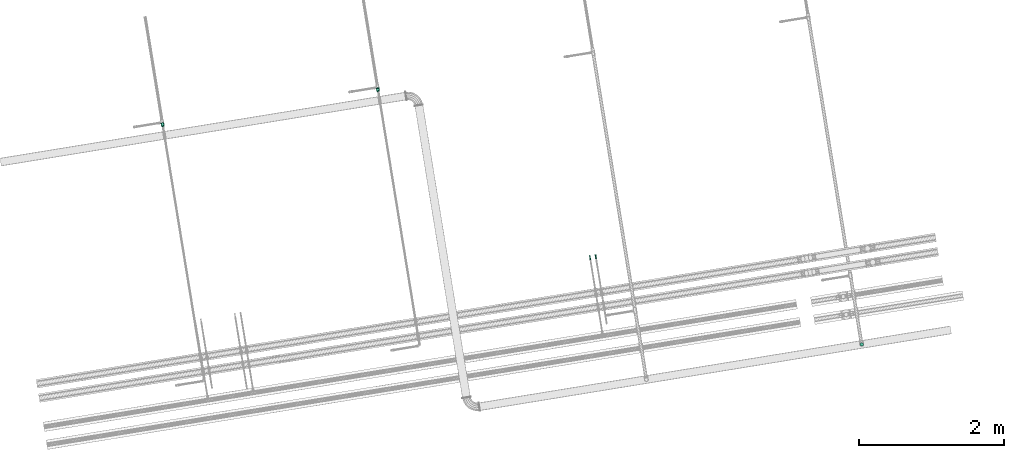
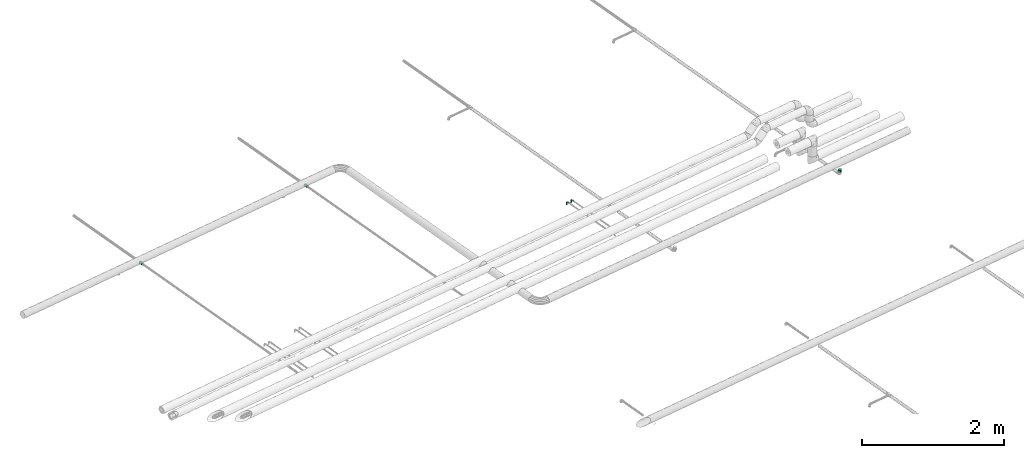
# One storey, part 50 of 56: 4 flow fittings, 1 flow segment.
"""IFC2X3 building model written with IfcOpenShell, lengths in millimetres."""

from ifc_helpers import new_model, entity, si_unit, converted_unit, derived_unit, direction, frame, origin, origin_with_axes, origin_2d_with_axis, place, context, subcontext, project, spatial, circle, extrude, faceted_brep, source, transform, mapped, material, material_list, type_object, element, save


model = new_model("IFC2X3")

# Units and contexts
model_context = context("Model", 3, precision=0.01, world=origin(), true_north=direction((6.12323399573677e-17, 1.0)))
plan_context = context("Plan", 3, precision=1e-05, world=origin_with_axes())
body_context = subcontext(model_context, "Body", "Model", "MODEL_VIEW")
ifc_project = project(units=[converted_unit("PLANEANGLEUNIT", "DEGREE", entity("IfcPositiveLengthMeasure", 0.0174532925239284), si_unit("PLANEANGLEUNIT", "RADIAN"), dimensions=[0, 0, 0, 0, 0, 0, 0]), si_unit("AREAUNIT", "SQUARE_METRE"), si_unit("LENGTHUNIT", "METRE", prefix="MILLI"), si_unit("MASSUNIT", "GRAM", prefix="KILO"), si_unit("POWERUNIT", "WATT"), si_unit("PRESSUREUNIT", "PASCAL", prefix="KILO"), si_unit("FORCEUNIT", "NEWTON", prefix="KILO"), si_unit("ELECTRICVOLTAGEUNIT", "VOLT"), si_unit("ELECTRICCURRENTUNIT", "AMPERE"), si_unit("THERMODYNAMICTEMPERATUREUNIT", "DEGREE_CELSIUS"), si_unit("TIMEUNIT", "SECOND"), si_unit("VOLUMEUNIT", "CUBIC_METRE"), derived_unit("LINEARVELOCITYUNIT", [(si_unit("LENGTHUNIT", "METRE"), 1), (si_unit("TIMEUNIT", "SECOND"), -1)]), derived_unit("VOLUMETRICFLOWRATEUNIT", [(si_unit("VOLUMEUNIT", "CUBIC_METRE"), 1), (si_unit("TIMEUNIT", "SECOND"), -1)]), derived_unit("THERMALTRANSMITTANCEUNIT", [(si_unit("POWERUNIT", "WATT"), 1), (si_unit("THERMODYNAMICTEMPERATUREUNIT", "KELVIN"), -1), (si_unit("AREAUNIT", "SQUARE_METRE"), -1)]), derived_unit("SOUNDPRESSUREUNIT", [(si_unit("PRESSUREUNIT", "PASCAL"), 1)])], contexts=[model_context, plan_context])

# Site, building, storey
site_placement = place(None, frame((-3.09682673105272e-06, 1.93776733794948e-05, 0.0), z_axis=(0.0, 0.0, 1.0), x_axis=(-0.160806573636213, 0.986985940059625, 0.0)))
site = spatial("IfcSite", under=ifc_project, at=site_placement, Name="Default", CompositionType="ELEMENT")
building_placement = place(site_placement, frame((0.0, 0.0, 0.0), z_axis=(0.0, 0.0, 1.0), x_axis=(1.0, -2.77555756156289e-17, 0.0)))
building = spatial("IfcBuilding", under=site, at=building_placement, Name="Bygning (endres i Project Information)", CompositionType="ELEMENT")
storey_placement = place(building_placement, frame((0.0, 0.0, 51360.0000000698), z_axis=(0.0, 0.0, 1.0), x_axis=(1.0, -2.77555756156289e-17, 0.0)))
storey = spatial("IfcBuildingStorey", under=building, at=storey_placement, Name="H01-Nivå D+0,36", CompositionType="ELEMENT", Elevation=51360.0000000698)

# Flow fittings
ifc_material_1 = material(Name="3320.001")
pipe_fitting_type_1 = type_object("IfcPipeFittingType", Name="RS_53_PIF_UN_Reducing-Socket-EN10241_MC_gen:RS_53_PIF_UN_Reducing-Socket-EN10241_MC_gen", PredefinedType="NOTDEFINED", material=ifc_material_1)
shared_shape_1 = source(origin(), body_context, "Body", "Brep", [
    faceted_brep([(0.0, 0.0, 24.5), (0.0, 6.34106660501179, 23.6651827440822), (0.0, 12.25, 21.2176223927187), (0.0, 17.3241161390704, 17.3241161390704), (0.0, 21.2176223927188, 12.25), (0.0, 23.6651827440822, 6.34106660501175), (0.0, 24.5, 0.0), (0.0, 23.6651827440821, -6.34106660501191), (0.0, 21.2176223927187, -12.2500000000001), (0.0, 17.3241161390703, -17.3241161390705), (0.0, 12.2499999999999, -21.2176223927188), (0.0, 6.34106660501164, -23.6651827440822), (0.0, 0.0, -24.5), (0.0, -6.34106660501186, -23.6651827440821), (0.0, -12.2500000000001, -21.2176223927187), (0.0, -17.3241161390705, -17.3241161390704), (0.0, -21.2176223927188, -12.2499999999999), (0.0, -23.6651827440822, -6.34106660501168), (0.0, -24.5, 0.0), (0.0, -23.6651827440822, 6.34106660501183), (0.0, -21.2176223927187, 12.2500000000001), (0.0, -17.3241161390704, 17.3241161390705), (0.0, -12.25, 21.2176223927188), (0.0, -6.34106660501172, 23.6651827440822), (18.6666666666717, -8.25137606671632, -22.6729794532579), (18.6666666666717, -18.7677686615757, -15.7486780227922), (18.6666666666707, -20.8950763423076, -12.0642027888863), (18.6666666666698, -23.0223840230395, -8.37972755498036), (18.6666666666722, -12.2493529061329, -21.2179959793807), (18.6666666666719, -15.5085607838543, -18.4833370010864), (18.6666666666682, -23.7125607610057, -4.46565710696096), (18.6666666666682, -23.7611920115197, -4.18986377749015), (18.6666666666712, -4.25339922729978, -24.1279629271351), (18.6666666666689, 4.25560674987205, -24.1275736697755), (18.6666666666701, 0.00110376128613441, -24.1277682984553), (18.6666666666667, -24.5, 0.0), (18.6666666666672, 8.25345045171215, -22.6722244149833), (18.6666666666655, 12.2512941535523, -21.2168751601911), (18.6666666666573, 23.0231506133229, -8.37762113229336), (18.6666666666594, 20.8961800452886, -12.062290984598), (18.6666666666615, 18.7692094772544, -15.7469608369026), (18.6666666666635, 15.5102518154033, -18.4819179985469), (18.6666666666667, 24.5, 0.0), (18.6666666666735, 18.7692094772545, 15.7469608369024), (18.666666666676, 20.8961800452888, 12.0622909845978), (18.6666666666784, 23.023150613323, 8.3776211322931), (18.6666666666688, 12.2512941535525, 21.216875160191), (18.6666666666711, 15.5102518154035, 18.4819179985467), (18.6666666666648, 4.25560674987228, 24.1275736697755), (18.6666666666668, 8.25345045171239, 22.6722244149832), (18.6666666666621, -4.25339922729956, 24.1279629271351), (18.6666666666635, 0.00110376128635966, 24.1277682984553), (18.6666666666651, -23.7611920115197, 4.1898637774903), (18.6666666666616, -8.25137606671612, 22.672979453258), (18.666666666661, -12.2493529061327, 21.2179959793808), (18.6666666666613, -15.5085607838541, 18.4833370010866), (18.6666666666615, -18.7677686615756, 15.7486780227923), (18.6666666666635, -23.0223840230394, 8.37972755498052), (18.6666666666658, -23.7125607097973, 4.46565739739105), (18.6666666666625, -20.8950763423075, 12.0642027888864), (37.3333333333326, 19.750000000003, 0.0), (37.3333333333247, 18.5595959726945, -6.75306577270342), (37.3333333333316, 9.87626627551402, -17.1032705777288), (37.3333333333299, 12.5033702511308, -14.8985095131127), (37.3333333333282, 15.1304742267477, -12.6937484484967), (37.3333333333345, 3.43075149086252, -19.4497414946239), (37.333333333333, 6.65350888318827, -18.2765060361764), (37.3333333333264, 16.8450350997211, -9.72340711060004), (37.3333333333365, -3.42859151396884, -19.4501223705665), (37.3333333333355, 0.00107998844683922, -19.4499319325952), (37.3333333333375, -9.87436684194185, -17.1043672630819), (37.333333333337, -6.65147917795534, -18.2772448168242), (37.3333333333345, -19.1544229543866, -3.37756341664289), (37.3333333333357, -18.558845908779, -6.75512683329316), (37.3333333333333, -19.7499999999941, 0.0), (37.3333333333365, -16.8439551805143, -9.72527774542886), (37.3333333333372, -15.1290644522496, -12.6954286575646), (37.3333333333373, -12.5017156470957, -14.8998979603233), (37.3333333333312, -18.5588459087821, 6.755126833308), (37.3333333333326, -19.1544229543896, 3.37756341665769), (37.3333333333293, -15.1290644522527, 12.6954286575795), (37.3333333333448, 18.559595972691, 6.75306577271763), (37.3333333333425, 16.8450350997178, 9.72340711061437), (37.3333333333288, -9.87436684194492, 17.104367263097), (37.3333333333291, -12.5017156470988, 14.8998979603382), (37.3333333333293, -6.65147917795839, 18.2772448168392), (37.3333333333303, -16.8439551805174, 9.72527774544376), (37.333333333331, 0.00107998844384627, 19.4499319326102), (37.3333333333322, 3.43075149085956, 19.4497414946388), (37.3333333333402, 15.1304742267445, 12.6937484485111), (37.333333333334, 6.65350888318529, 18.2765060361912), (37.3333333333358, 9.87626627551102, 17.1032705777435), (37.333333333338, 12.5033702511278, 14.8985095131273), (37.3333333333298, -3.42859151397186, 19.4501223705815), (56.0, 5.11167614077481, -19.0770350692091), (56.0, 9.87500000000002, -17.1040017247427), (56.0, 13.9653589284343, -13.9653589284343), (56.0, 17.1040017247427, -9.87499999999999), (56.0, 19.0770350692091, -5.11167614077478), (56.0, 19.75, 0.0), (56.0, 19.0770350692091, 5.1116761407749), (56.0, 17.1040017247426, 9.8750000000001), (56.0, 13.9653589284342, 13.9653589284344), (56.0, 9.87499999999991, 17.1040017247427), (56.0, 5.11167614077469, 19.0770350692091), (56.0, 0.0, 19.75), (56.0, -5.11167614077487, 19.0770350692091), (56.0, -9.87500000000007, 17.1040017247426), (56.0, -13.9653589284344, 13.9653589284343), (56.0, -17.1040017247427, 9.87499999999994), (56.0, -19.0770350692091, 5.11167614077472), (56.0, -19.75, 0.0), (56.0, -19.0770350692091, -5.11167614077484), (56.0, -17.1040017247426, -9.87500000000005), (56.0, -13.9653589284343, -13.9653589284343), (56.0, -9.87499999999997, -17.1040017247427), (56.0, -5.11167614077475, -19.0770350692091), (56.0, 0.0, -19.75)], [[[0, 1, 2, 3, 4, 5, 6, 7, 8, 9, 10, 11, 12, 13, 14, 15, 16, 17, 18, 19, 20, 21, 22, 23]], [[24, 14, 13]], [[16, 15, 25]], [[16, 25, 26, 27]], [[28, 29, 14]], [[17, 27, 30, 31]], [[31, 18, 17]], [[16, 27, 17]], [[13, 32, 24]], [[25, 15, 29]], [[12, 33, 34, 32]], [[24, 28, 14]], [[14, 29, 15]], [[31, 35, 18]], [[33, 12, 11]], [[36, 10, 37]], [[8, 38, 39, 40]], [[10, 36, 11]], [[8, 7, 38]], [[9, 40, 41]], [[33, 11, 36]], [[8, 40, 9]], [[41, 37, 10]], [[7, 42, 38]], [[7, 6, 42]], [[12, 32, 13]], [[41, 10, 9]], [[42, 6, 5]], [[4, 3, 43]], [[4, 43, 44, 45]], [[46, 47, 2]], [[45, 42, 5]], [[1, 48, 49]], [[43, 3, 47]], [[0, 50, 51, 48]], [[2, 47, 3]], [[50, 0, 23]], [[0, 48, 1]], [[18, 52, 19]], [[53, 22, 54]], [[49, 2, 1]], [[55, 22, 21]], [[35, 52, 18]], [[4, 45, 5]], [[22, 53, 23]], [[21, 56, 55]], [[50, 23, 53]], [[49, 46, 2]], [[20, 56, 21]], [[57, 20, 19]], [[19, 52, 58, 57]], [[55, 54, 22]], [[59, 56, 20, 57]], [[42, 60, 61]], [[41, 62, 37]], [[63, 40, 64]], [[40, 39, 64]], [[33, 36, 65]], [[65, 36, 66]], [[38, 42, 61]], [[64, 39, 67]], [[41, 40, 63]], [[36, 37, 66]], [[62, 41, 63]], [[38, 67, 39]], [[68, 34, 69]], [[68, 32, 34]], [[24, 70, 28]], [[32, 68, 71]], [[72, 35, 31, 30]], [[73, 27, 26]], [[72, 74, 35]], [[26, 75, 73]], [[76, 25, 29]], [[29, 77, 76]], [[70, 24, 71]], [[24, 32, 71]], [[70, 77, 28]], [[76, 75, 25]], [[28, 77, 29]], [[25, 75, 26]], [[73, 30, 27]], [[30, 73, 72]], [[66, 37, 62]], [[69, 34, 33]], [[69, 33, 65]], [[67, 38, 61]], [[78, 58, 79]], [[80, 55, 56]], [[81, 45, 82]], [[78, 59, 57]], [[83, 53, 54]], [[55, 80, 84]], [[79, 58, 52, 35]], [[78, 57, 58]], [[84, 54, 55]], [[85, 50, 53]], [[79, 35, 74]], [[86, 56, 59]], [[84, 83, 54]], [[48, 87, 88]], [[49, 48, 88]], [[59, 78, 86]], [[53, 83, 85]], [[87, 48, 51]], [[81, 60, 42]], [[44, 43, 89]], [[90, 46, 49]], [[47, 46, 91]], [[86, 80, 56]], [[82, 45, 44]], [[49, 88, 90]], [[92, 43, 47]], [[91, 46, 90]], [[51, 50, 93]], [[42, 45, 81]], [[85, 93, 50]], [[44, 89, 82]], [[51, 93, 87]], [[47, 91, 92]], [[89, 43, 92]], [[94, 95, 96, 97, 98, 99, 100, 101, 102, 103, 104, 105, 106, 107, 108, 109, 110, 111, 112, 113, 114, 115, 116, 117]], [[60, 99, 98]], [[97, 96, 64]], [[97, 64, 67, 61]], [[62, 63, 95]], [[61, 60, 98]], [[94, 65, 66]], [[64, 96, 63]], [[117, 68, 69, 65]], [[95, 63, 96]], [[117, 116, 68]], [[77, 70, 115]], [[66, 95, 94]], [[115, 70, 71]], [[113, 112, 73]], [[115, 71, 116]], [[117, 65, 94]], [[97, 61, 98]], [[72, 111, 74]], [[71, 68, 116]], [[113, 76, 114]], [[114, 76, 77]], [[77, 115, 114]], [[113, 73, 75, 76]], [[111, 72, 112]], [[66, 62, 95]], [[72, 73, 112]], [[85, 107, 106]], [[109, 108, 80]], [[109, 80, 86, 78]], [[83, 84, 107]], [[110, 78, 79]], [[79, 111, 110]], [[109, 78, 110]], [[106, 93, 85]], [[80, 108, 84]], [[105, 88, 87, 93]], [[85, 83, 107]], [[107, 84, 108]], [[79, 74, 111]], [[88, 105, 104]], [[90, 103, 91]], [[101, 81, 82, 89]], [[103, 90, 104]], [[101, 100, 81]], [[102, 89, 92]], [[88, 104, 90]], [[101, 89, 102]], [[92, 91, 103]], [[100, 60, 81]], [[100, 99, 60]], [[105, 93, 106]], [[92, 103, 102]]]),
])
for number, where, z_axis, x_axis in (
    (1, (1015155.00224105, -389333.90511076, 3200.0), (0.0, 0.0, 1.0), (-1.0, 2.77555756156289e-17, 0.0)),
    (2, (1015155.00224105, -386333.90511076, 3200.0), (0.0, 0.0, 1.0), (-1.0, 2.77555756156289e-17, 0.0)),
):
    element("IfcFlowFitting", number, at=place(storey_placement, frame(where, z_axis=z_axis, x_axis=x_axis)), inside=storey, type_object=pipe_fitting_type_1, material=ifc_material_1, Name="RS_53_PIF_UN_Reducing-Socket-EN10241_MC_gen:RS_53_PIF_UN_Reducing-Socket-EN10241_MC_gen", ObjectType="RS_53_PIF_UN_Reducing-Socket-EN10241_MC_gen:RS_53_PIF_UN_Reducing-Socket-EN10241_MC_gen", context=body_context, shape_type="MappedRepresentation", body=[
        mapped(shared_shape_1, transform((0.0, 0.0, 0.0), scale=1.0)),
    ])
ifc_material_2 = material(Name="Geberit_Plastic_Red")
ifc_material_3 = material(Name="Geberit_Mapress_C-Steel")
ifc_material_list = material_list([ifc_material_2, ifc_material_3])
pipe_fitting_type_2 = type_object("IfcPipeFittingType", Name="PRO_103184:DN10-100 / d12-108 - OD", PredefinedType="BEND", material=ifc_material_list)
shared_shape_2 = source(origin(), body_context, "Body", "Brep", [
    faceted_brep([(-10.2000000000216, -53.0, 0.0), (-5.10000000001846, -47.0, -8.83345911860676), (-10.2000000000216, -47.0, 0.0), (-2.55000000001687, -53.0, -4.41672955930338), (5.09999999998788, -53.0, -8.83345911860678), (10.1999999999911, -53.0, 0.0), (10.1999999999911, -47.0, 0.0), (2.5499999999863, -47.0, -4.41672955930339), (5.09999999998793, -47.0, 8.83345911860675), (2.54999999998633, -53.0, 4.41672955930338), (-5.10000000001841, -53.0, 8.8334591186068), (-2.55000000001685, -47.0, 4.4167295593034), (-5.17175504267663, -51.2531170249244, -11.8460073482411), (-11.7000000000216, -51.5, 0.0), (-13.2000000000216, -50.0, 0.0), (5.11103073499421, -51.5722147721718, -11.6862298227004), (11.6999999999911, -51.5, 0.0), (13.1999999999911, -50.0, 0.0), (-12.2979341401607, -49.0979341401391, 0.0), (6.17107192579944, -48.6643322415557, -11.3125400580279), (-3.97333148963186, -48.3812583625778, -12.0896100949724), (12.2979341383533, -49.0979341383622, 0.0), (5.17175486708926, -51.2531170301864, 11.8460074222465), (-5.11103073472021, -51.5722148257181, 11.6862297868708), (3.97333137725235, -48.3812583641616, 12.089610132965), (-6.17107195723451, -48.6643322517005, 11.3125400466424)], [[[0, 1, 2]], [[1, 0, 3, 4]], [[4, 5, 6]], [[4, 6, 7, 1]], [[5, 8, 6]], [[8, 5, 9, 10]], [[10, 0, 2]], [[10, 2, 11, 8]], [[12, 0, 13, 14]], [[12, 15, 3]], [[16, 5, 15, 17]], [[18, 12, 14]], [[3, 0, 12]], [[7, 6, 19]], [[12, 18, 20]], [[19, 17, 15]], [[20, 18, 2]], [[20, 15, 12]], [[19, 6, 21, 17]], [[3, 15, 4]], [[19, 15, 20]], [[1, 7, 20]], [[5, 4, 15]], [[19, 20, 7]], [[2, 1, 20]], [[22, 5, 16, 17]], [[22, 23, 9]], [[13, 0, 23, 14]], [[21, 22, 17]], [[9, 5, 22]], [[22, 21, 24]], [[24, 23, 22]], [[25, 23, 24]], [[24, 21, 6]], [[25, 14, 23]], [[25, 2, 18, 14]], [[10, 9, 23]], [[11, 2, 25]], [[8, 11, 24]], [[0, 10, 23]], [[25, 24, 11]], [[6, 8, 24]]]),
    faceted_brep([(-9.0, -53.0, 0.0), (-4.50000000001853, -32.0, -7.79422863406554), (-9.0, -32.0, 0.0), (4.49999999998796, -53.0, -7.79422863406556), (9.0, -53.0, 0.0), (9.0, -32.0, 0.0), (2.24999999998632, -32.0, -3.89711431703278), (4.49999999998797, -32.0, 7.79422863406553), (-4.50000000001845, -53.0, 7.79422863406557), (-2.25000000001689, -32.0, 3.89711431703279), (10.1999999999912, -53.0, 0.0), (5.09999999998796, -53.0, -8.83345911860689), (-5.10000000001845, -53.0, 8.8334591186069), (-10.2000000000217, -53.0, 0.0), (-10.2000000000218, -33.0, 0.0), (-2.55000000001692, -33.0, -4.41672955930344), (5.09999999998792, -33.0, -8.83345911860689), (10.1999999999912, -33.0, 0.0), (2.54999999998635, -33.0, 4.41672955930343), (-5.10000000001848, -33.0, 8.8334591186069)], [[[0, 1, 2]], [[1, 0, 3]], [[3, 4, 5]], [[3, 5, 6, 1]], [[4, 7, 5]], [[7, 4, 8]], [[8, 0, 2]], [[8, 2, 9, 7]], [[10, 4, 11]], [[10, 8, 4]], [[8, 10, 12]], [[12, 0, 8]], [[12, 13, 0]], [[3, 0, 13]], [[3, 13, 11]], [[11, 4, 3]], [[14, 15, 16, 11, 13]], [[17, 10, 11, 16]], [[17, 18, 19, 12, 10]], [[14, 13, 12, 19]], [[15, 14, 1]], [[2, 1, 14]], [[6, 5, 16]], [[1, 6, 15]], [[17, 16, 5]], [[6, 16, 15]], [[18, 17, 7]], [[5, 7, 17]], [[9, 2, 19]], [[7, 9, 18]], [[14, 19, 2]], [[9, 19, 18]]]),
    faceted_brep([(-53.0, 10.2000000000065, 0.0), (-47.0, 5.1000000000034, -8.83345911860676), (-47.0, 10.2000000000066, 0.0), (-53.0, 2.55000000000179, -4.41672955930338), (-53.0, -5.10000000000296, -8.83345911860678), (-53.0, -10.2000000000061, 0.0), (-47.0, -10.2000000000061, 0.0), (-47.0, -2.55000000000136, -4.41672955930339), (-47.0, -5.100000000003, 8.83345911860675), (-53.0, -2.55000000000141, 4.41672955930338), (-53.0, 5.10000000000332, 8.8334591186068), (-47.0, 2.55000000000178, 4.4167295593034), (-51.2531170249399, 5.17175504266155, -11.8460073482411), (-51.5000000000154, 11.7000000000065, 0.0), (-50.0, 13.2000000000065, 0.0), (-51.5722147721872, -5.11103073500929, -11.6862298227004), (-51.5000000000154, -11.7000000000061, 0.0), (-50.0, -13.2000000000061, 0.0), (-49.0979341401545, 12.2979341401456, 0.0), (-48.6643322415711, -6.17107192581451, -11.3125400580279), (-48.3812583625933, 3.97333148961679, -12.0896100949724), (-49.0979341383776, -12.2979341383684, 0.0), (-51.2531170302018, -5.17175486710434, 11.8460074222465), (-51.5722148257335, 5.11103073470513, 11.6862297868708), (-48.381258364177, -3.97333137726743, 12.089610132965), (-48.6643322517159, 6.17107195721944, 11.3125400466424)], [[[0, 1, 2]], [[1, 0, 3, 4]], [[4, 5, 6]], [[4, 6, 7, 1]], [[5, 8, 6]], [[8, 5, 9, 10]], [[10, 0, 2]], [[10, 2, 11, 8]], [[12, 0, 13, 14]], [[12, 15, 3]], [[16, 5, 15, 17]], [[18, 12, 14]], [[3, 0, 12]], [[7, 6, 19]], [[12, 18, 20]], [[19, 17, 15]], [[20, 18, 2]], [[20, 15, 12]], [[19, 6, 21, 17]], [[3, 15, 4]], [[19, 15, 20]], [[1, 7, 20]], [[5, 4, 15]], [[19, 20, 7]], [[2, 1, 20]], [[22, 5, 16, 17]], [[22, 23, 9]], [[13, 0, 23, 14]], [[21, 22, 17]], [[9, 5, 22]], [[22, 21, 24]], [[24, 23, 22]], [[25, 23, 24]], [[24, 21, 6]], [[25, 14, 23]], [[25, 2, 18, 14]], [[10, 9, 23]], [[11, 2, 25]], [[8, 11, 24]], [[0, 10, 23]], [[25, 24, 11]], [[6, 8, 24]]]),
    faceted_brep([(-53.0, 9.0, 0.0), (-32.0, 4.50000000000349, -7.79422863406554), (-32.0, 9.0, 0.0), (-53.0, -4.50000000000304, -7.79422863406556), (-53.0, -9.0, 0.0), (-32.0, -9.0, 0.0), (-32.0, -2.25000000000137, -3.89711431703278), (-32.0, -4.50000000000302, 7.79422863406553), (-53.0, 4.50000000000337, 7.79422863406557), (-32.0, 2.25000000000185, 3.89711431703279), (-53.0, -10.2000000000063, 0.0), (-53.0, -5.10000000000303, -8.83345911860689), (-53.0, 5.10000000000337, 8.8334591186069), (-53.0, 10.2000000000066, 0.0), (-33.0, 10.2000000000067, 0.0), (-33.0, 2.55000000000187, -4.41672955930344), (-33.0, -5.10000000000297, -8.83345911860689), (-33.0, -10.2000000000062, 0.0), (-33.0, -2.55000000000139, 4.41672955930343), (-33.0, 5.10000000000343, 8.8334591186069)], [[[0, 1, 2]], [[1, 0, 3]], [[3, 4, 5]], [[3, 5, 6, 1]], [[4, 7, 5]], [[7, 4, 8]], [[8, 0, 2]], [[8, 2, 9, 7]], [[10, 4, 11]], [[10, 8, 4]], [[8, 10, 12]], [[12, 0, 8]], [[12, 13, 0]], [[3, 0, 13]], [[3, 13, 11]], [[11, 4, 3]], [[14, 15, 16, 11, 13]], [[17, 10, 11, 16]], [[17, 18, 19, 12, 10]], [[14, 13, 12, 19]], [[15, 14, 1]], [[2, 1, 14]], [[6, 5, 16]], [[1, 6, 15]], [[17, 16, 5]], [[6, 16, 15]], [[18, 17, 7]], [[5, 7, 17]], [[9, 2, 19]], [[7, 9, 18]], [[14, 19, 2]], [[9, 19, 18]]]),
    faceted_brep([(-33.0, -2.3293714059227, -8.69333243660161), (-33.0, -7.79422863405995, -4.5), (-33.0, -9.0, 0.0), (-33.0, -7.79422863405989, 4.50000000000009), (-33.0, -2.32937140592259, 8.69333243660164), (-33.0, 2.32937140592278, 8.69333243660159), (-33.0, 7.79422863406, 4.49999999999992), (-33.0, 9.0, 0.0), (-33.0, 7.79422863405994, -4.50000000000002), (-33.0, 2.32937140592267, -8.69333243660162), (-14.0, 7.79422863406, 4.49999999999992), (-14.0, 9.0, 0.0), (-14.0, 2.32937140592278, 8.69333243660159), (-14.0, -2.32937140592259, 8.69333243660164), (2.32937140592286, -14.0, 8.69333243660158), (-2.32937140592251, -14.0, 8.69333243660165), (-2.32937140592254, -33.0, 8.69333243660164), (2.32937140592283, -33.0, 8.69333243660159), (-14.0, -7.79422863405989, 4.50000000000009), (-14.0, -9.0, 0.0), (-14.0, -7.79422863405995, -4.5), (-14.0, -2.3293714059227, -8.69333243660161), (-14.0, 2.32937140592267, -8.69333243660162), (-2.32937140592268, -14.0, -8.69333243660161), (2.32937140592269, -14.0, -8.69333243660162), (2.32937140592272, -33.0, -8.69333243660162), (-2.32937140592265, -33.0, -8.69333243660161), (-14.0, 7.79422863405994, -4.50000000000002), (-2.50000000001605, 5.91858428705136, 0.0), (-1.6301655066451, -1.63016464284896, 8.29426552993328), (4.70281626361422, -6.55705943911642, 0.0), (-10.4644660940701, -10.4644660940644, 0.0), (7.79422863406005, -14.0, 4.49999999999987), (-7.79422863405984, -14.0, 4.50000000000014), (-9.0, -14.0, 0.0), (9.0, -14.0, 0.0), (-1.63016501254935, -1.63016417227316, -8.29426524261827), (-7.79422863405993, -14.0, -4.49999999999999), (7.79422863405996, -14.0, -4.50000000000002), (9.0, -33.0, 0.0), (7.79422863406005, -33.0, 4.49999999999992), (-7.79422863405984, -33.0, 4.50000000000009), (-9.0, -33.0, 0.0), (-7.7942286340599, -33.0, -4.5), (7.79422863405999, -33.0, -4.50000000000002)], [[[0, 1, 2, 3, 4, 5, 6, 7, 8, 9]], [[10, 11, 7, 6]], [[12, 10, 6, 5]], [[5, 4, 13, 12]], [[14, 15, 16, 17]], [[18, 13, 4, 3]], [[19, 18, 3, 2]], [[20, 19, 2, 1]], [[21, 20, 1, 0]], [[0, 9, 22, 21]], [[23, 24, 25, 26]], [[27, 22, 9, 8]], [[11, 27, 8, 7]], [[10, 28, 11]], [[12, 28, 10]], [[28, 29, 30]], [[29, 12, 13]], [[18, 19, 31]], [[18, 29, 13]], [[32, 30, 14]], [[14, 29, 15]], [[29, 28, 12]], [[33, 15, 29]], [[29, 14, 30]], [[33, 31, 34]], [[18, 31, 33]], [[33, 29, 18]], [[35, 30, 32]], [[24, 36, 30]], [[36, 37, 20]], [[36, 20, 21]], [[28, 27, 11]], [[27, 28, 22]], [[36, 21, 22]], [[31, 19, 20]], [[37, 34, 31]], [[36, 22, 28]], [[37, 36, 23]], [[38, 24, 30]], [[30, 35, 38]], [[36, 28, 30]], [[23, 36, 24]], [[31, 20, 37]], [[39, 40, 17, 16, 41, 42, 43, 26, 25, 44]], [[40, 39, 35, 32]], [[17, 40, 32, 14]], [[41, 16, 15, 33]], [[42, 41, 33, 34]], [[43, 42, 34, 37]], [[26, 43, 37, 23]], [[44, 25, 24, 38]], [[39, 44, 38, 35]]]),
])
for number, where, z_axis, x_axis in (
    (3, (1012400.03048285, -391841.6268451, 3299.99999997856), (2.77555756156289e-17, 1.0, 0.0), (0.0, 0.0, 1.0)),
    (4, (1012399.71582841, -391921.651949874, 3299.99999997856), (2.77555756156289e-17, 1.0, 0.0), (0.0, 0.0, 1.0)),
):
    element("IfcFlowFitting", number, at=place(storey_placement, frame(where, z_axis=z_axis, x_axis=x_axis)), inside=storey, type_object=pipe_fitting_type_2, material=ifc_material_list, Name="PRO_103184:DN10-100 / d12-108 - OD", ObjectType="PRO_103184:DN10-100 / d12-108 - OD", context=body_context, shape_type="MappedRepresentation", body=[
        mapped(shared_shape_2, transform((0.0, 0.0, 0.0), scale=1.0)),
    ])

# Flow segment
pipe_segment_type = type_object("IfcPipeSegmentType", Name="Pipe Types:Stålrør sveist og gjenget", PredefinedType="NOTDEFINED", material=ifc_material_1)
flow_segment_placement = place(storey_placement, frame((0.0, 0.0, 0.0), z_axis=(0.0, 0.0, 1.0), x_axis=(1.0, -2.77555756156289e-17, 0.0)))
element("IfcFlowSegment", 5, at=flow_segment_placement, inside=storey, type_object=pipe_segment_type, Name="Pipe Types:Stålrør sveist og gjenget", ObjectType="Pipe Types:Stålrør sveist og gjenget", context=body_context, shape_type="SweptSolid", body=[
    extrude(circle(Radius=24.1499996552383, at=origin_2d_with_axis()), frame((1010597.87927671, -395336.905112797, 3230.59999999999), z_axis=(0.0, 0.0, 1.0), x_axis=(-1.0, 0.0, 0.0)), (0.0, 0.0, 1.0), 49.4000000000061),
])

save(model, "model.ifc")
